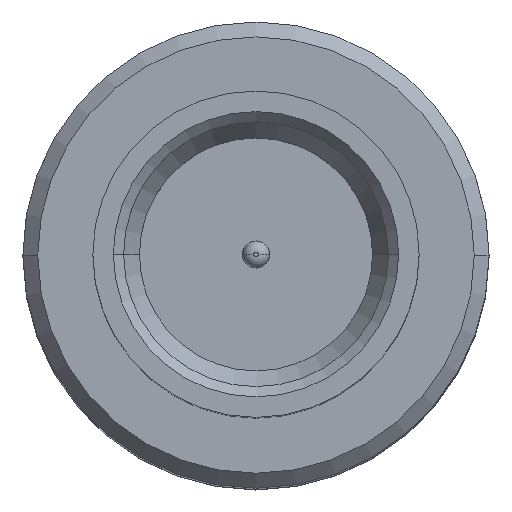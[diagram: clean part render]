
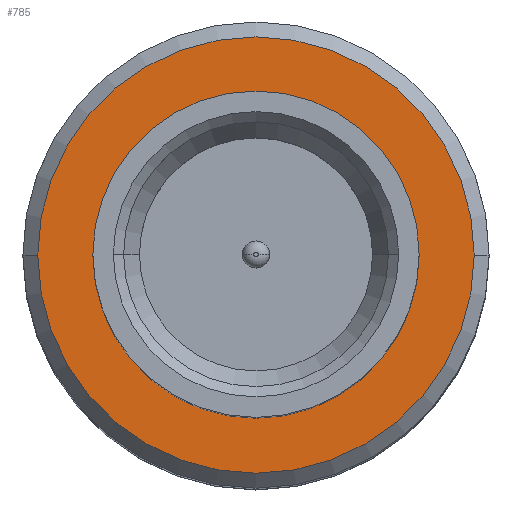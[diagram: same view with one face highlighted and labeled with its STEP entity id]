
A CAD part, top view. The second image highlights one B-rep face of the part: STEP entity #785.
In plain terms, the highlighted planar face has unit normal (0, 0, 1).
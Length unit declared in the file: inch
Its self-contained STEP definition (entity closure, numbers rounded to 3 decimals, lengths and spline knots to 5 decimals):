
#8 = DIRECTION ( 'NONE',  ( 0., 0., -1. ) ) ;
#15 = EDGE_CURVE ( 'NONE', #216, #1827, #83, .T. ) ;
#54 = FACE_BOUND ( 'NONE', #404, .T. ) ;
#83 = CIRCLE ( 'NONE', #454, 0.0875 ) ;
#135 = DIRECTION ( 'NONE',  ( 1., 0., 0. ) ) ;
#216 = VERTEX_POINT ( 'NONE', #361 ) ;
#222 = ORIENTED_EDGE ( 'NONE', *, *, #1281, .T. ) ;
#260 = ORIENTED_EDGE ( 'NONE', *, *, #1130, .T. ) ;
#292 = CIRCLE ( 'NONE', #1489, 0.0875 ) ;
#361 = CARTESIAN_POINT ( 'NONE',  ( 0.0875, 0., -0.2653 ) ) ;
#362 = ORIENTED_EDGE ( 'NONE', *, *, #15, .F. ) ;
#394 = CARTESIAN_POINT ( 'NONE',  ( 0., 0., -0.2653 ) ) ;
#404 = EDGE_LOOP ( 'NONE', ( #362, #1679 ) ) ;
#417 = AXIS2_PLACEMENT_3D ( 'NONE', #971, #8, #1129 ) ;
#426 = CARTESIAN_POINT ( 'NONE',  ( 0., 0., -0.2653 ) ) ;
#432 = FACE_OUTER_BOUND ( 'NONE', #758, .T. ) ;
#454 = AXIS2_PLACEMENT_3D ( 'NONE', #394, #973, #135 ) ;
#577 = DIRECTION ( 'NONE',  ( -1., 0., 0. ) ) ;
#586 = DIRECTION ( 'NONE',  ( 0., 0., 1. ) ) ;
#758 = EDGE_LOOP ( 'NONE', ( #222, #260 ) ) ;
#785 = ADVANCED_FACE ( 'NONE', ( #432, #54 ), #1283, .F. ) ;
#787 = DIRECTION ( 'NONE',  ( 0., 0., 1. ) ) ;
#814 = CARTESIAN_POINT ( 'NONE',  ( -0.117, 0., -0.2653 ) ) ;
#916 = CARTESIAN_POINT ( 'NONE',  ( -0.0875, 0., -0.2653 ) ) ;
#971 = CARTESIAN_POINT ( 'NONE',  ( 0., 0.0875, -0.2653 ) ) ;
#973 = DIRECTION ( 'NONE',  ( 0., 0., 1. ) ) ;
#1087 = AXIS2_PLACEMENT_3D ( 'NONE', #426, #1543, #577 ) ;
#1129 = DIRECTION ( 'NONE',  ( -1., 0., 0. ) ) ;
#1130 = EDGE_CURVE ( 'NONE', #2002, #2018, #1213, .T. ) ;
#1213 = CIRCLE ( 'NONE', #1087, 0.117 ) ;
#1281 = EDGE_CURVE ( 'NONE', #2018, #2002, #1585, .T. ) ;
#1283 = PLANE ( 'NONE',  #417 ) ;
#1468 = AXIS2_PLACEMENT_3D ( 'NONE', #1724, #787, #1879 ) ;
#1489 = AXIS2_PLACEMENT_3D ( 'NONE', #1555, #586, #1699 ) ;
#1543 = DIRECTION ( 'NONE',  ( 0., 0., 1. ) ) ;
#1555 = CARTESIAN_POINT ( 'NONE',  ( 0., 0., -0.2653 ) ) ;
#1585 = CIRCLE ( 'NONE', #1468, 0.117 ) ;
#1679 = ORIENTED_EDGE ( 'NONE', *, *, #1793, .F. ) ;
#1699 = DIRECTION ( 'NONE',  ( 1., 0., 0. ) ) ;
#1724 = CARTESIAN_POINT ( 'NONE',  ( 0., 0., -0.2653 ) ) ;
#1740 = CARTESIAN_POINT ( 'NONE',  ( 0.117, 0., -0.2653 ) ) ;
#1793 = EDGE_CURVE ( 'NONE', #1827, #216, #292, .T. ) ;
#1827 = VERTEX_POINT ( 'NONE', #916 ) ;
#1879 = DIRECTION ( 'NONE',  ( -1., 0., 0. ) ) ;
#2002 = VERTEX_POINT ( 'NONE', #1740 ) ;
#2018 = VERTEX_POINT ( 'NONE', #814 ) ;
